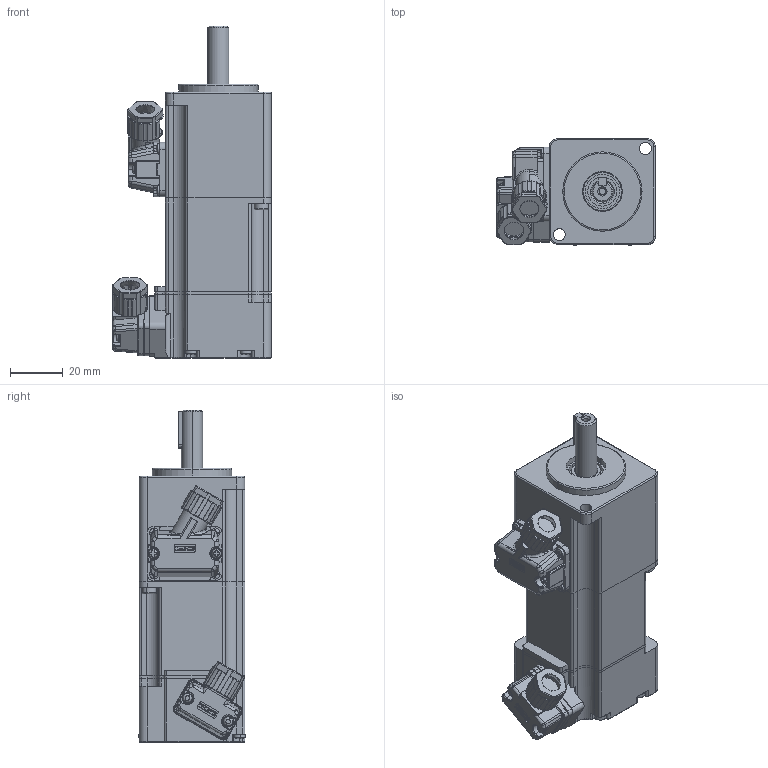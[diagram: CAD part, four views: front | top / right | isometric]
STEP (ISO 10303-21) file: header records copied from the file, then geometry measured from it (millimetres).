
FILE_DESCRIPTION (( 'STEP AP203' ), '1' );
FILE_NAME ('WB40ST-Z1M00130总装-插拔式-2024(新联款插拔).STEP', '2024-11-08T09:17:55', ( 'lvbing' ), ( 'WG' ), 'SwSTEP 2.0', 'SolidWorks 2018', '' );
FILE_SCHEMA (( 'CONFIG_CONTROL_DESIGN' ));
Products named in the file (2): WB40ST-Z1M00130总装-插拔式-2024(新联款插拔)
Bounding box: 59.95 x 40.43 x 125.5 mm (x, y, z)
Surface area: 26801.8 mm2 (no closed solid volume)
Topology: 0 solids, 26 shells, 1222 faces, 4289 edges, 2955 vertices
Faces by surface type: plane 461, cylinder 457, torus 135, bspline 116, sphere 36, cone 17
Entity records: 50304 total; most frequent: CARTESIAN_POINT 15535, ORIENTED_EDGE 6986, DIRECTION 6781, EDGE_CURVE 4281, VERTEX_POINT 2955, AXIS2_PLACEMENT_3D 2423, LINE 1935, VECTOR 1935
